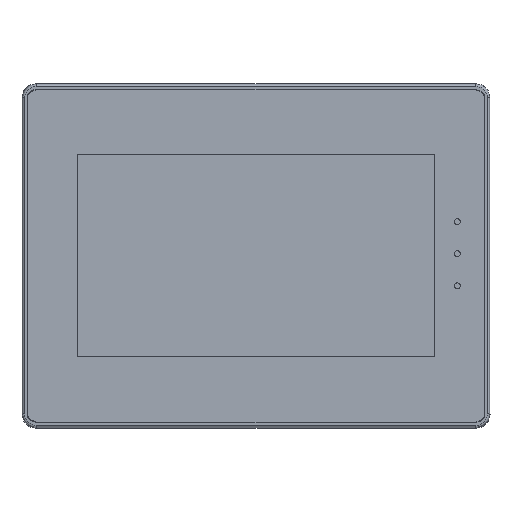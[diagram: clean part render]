
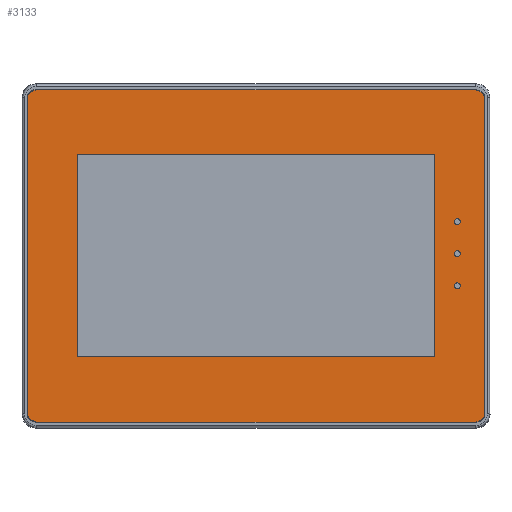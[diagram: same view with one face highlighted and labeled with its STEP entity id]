
A CAD part, top view. The second image highlights one B-rep face of the part: STEP entity #3133.
In plain terms, the highlighted planar face has unit normal (0, 0, 1).
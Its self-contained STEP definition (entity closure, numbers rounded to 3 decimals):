
#2906=DIRECTION('',(0.,1.,0.));
#2907=VECTOR('',#2906,138.5);
#2908=CARTESIAN_POINT('',(-99.5,-69.25,3.7));
#2909=LINE('',#2908,#2907);
#2910=CARTESIAN_POINT('',(-99.5,69.25,3.7));
#2911=CARTESIAN_POINT('',(-99.5,69.365,3.7));
#2912=CARTESIAN_POINT('',(-99.48,69.597,3.7));
#2913=CARTESIAN_POINT('',(-99.386,69.951,3.7));
#2914=CARTESIAN_POINT('',(-99.221,70.311,3.7));
#2915=CARTESIAN_POINT('',(-98.976,70.677,3.7));
#2916=CARTESIAN_POINT('',(-98.639,71.041,3.7));
#2917=CARTESIAN_POINT('',(-98.2,71.396,3.7));
#2918=CARTESIAN_POINT('',(-97.653,71.733,3.7));
#2919=CARTESIAN_POINT('',(-96.993,72.034,3.7));
#2920=CARTESIAN_POINT('',(-96.188,72.287,3.7));
#2921=CARTESIAN_POINT('',(-95.252,72.458,3.7));
#2922=CARTESIAN_POINT('',(-94.593,72.5,3.7));
#2923=CARTESIAN_POINT('',(-94.25,72.5,3.7));
#2925=DIRECTION('',(1.,0.,0.));
#2926=VECTOR('',#2925,188.5);
#2927=CARTESIAN_POINT('',(-94.25,72.5,3.7));
#2928=LINE('',#2927,#2926);
#2929=CARTESIAN_POINT('',(94.25,72.5,3.7));
#2930=CARTESIAN_POINT('',(94.593,72.5,3.7));
#2931=CARTESIAN_POINT('',(95.253,72.458,3.7));
#2932=CARTESIAN_POINT('',(96.189,72.287,3.7));
#2933=CARTESIAN_POINT('',(96.993,72.034,3.7));
#2934=CARTESIAN_POINT('',(97.653,71.732,3.7));
#2935=CARTESIAN_POINT('',(98.201,71.396,3.7));
#2936=CARTESIAN_POINT('',(98.639,71.041,3.7));
#2937=CARTESIAN_POINT('',(98.976,70.676,3.7));
#2938=CARTESIAN_POINT('',(99.221,70.311,3.7));
#2939=CARTESIAN_POINT('',(99.386,69.95,3.7));
#2940=CARTESIAN_POINT('',(99.48,69.597,3.7));
#2941=CARTESIAN_POINT('',(99.5,69.365,3.7));
#2942=CARTESIAN_POINT('',(99.5,69.25,3.7));
#2944=DIRECTION('',(0.,-1.,0.));
#2945=VECTOR('',#2944,138.5);
#2946=CARTESIAN_POINT('',(99.5,69.25,3.7));
#2947=LINE('',#2946,#2945);
#2948=CARTESIAN_POINT('',(99.5,-69.25,3.7));
#2949=CARTESIAN_POINT('',(99.5,-69.365,3.7));
#2950=CARTESIAN_POINT('',(99.48,-69.597,3.7));
#2951=CARTESIAN_POINT('',(99.386,-69.951,3.7));
#2952=CARTESIAN_POINT('',(99.221,-70.311,3.7));
#2953=CARTESIAN_POINT('',(98.976,-70.677,3.7));
#2954=CARTESIAN_POINT('',(98.639,-71.041,3.7));
#2955=CARTESIAN_POINT('',(98.2,-71.396,3.7));
#2956=CARTESIAN_POINT('',(97.653,-71.733,3.7));
#2957=CARTESIAN_POINT('',(96.993,-72.034,3.7));
#2958=CARTESIAN_POINT('',(96.188,-72.287,3.7));
#2959=CARTESIAN_POINT('',(95.252,-72.458,3.7));
#2960=CARTESIAN_POINT('',(94.593,-72.5,3.7));
#2961=CARTESIAN_POINT('',(94.25,-72.5,3.7));
#2963=DIRECTION('',(-1.,0.,0.));
#2964=VECTOR('',#2963,188.5);
#2965=CARTESIAN_POINT('',(94.25,-72.5,3.7));
#2966=LINE('',#2965,#2964);
#2967=CARTESIAN_POINT('',(-94.25,-72.5,3.7));
#2968=CARTESIAN_POINT('',(-94.593,-72.5,3.7));
#2969=CARTESIAN_POINT('',(-95.253,-72.458,3.7));
#2970=CARTESIAN_POINT('',(-96.189,-72.287,3.7));
#2971=CARTESIAN_POINT('',(-96.993,-72.034,3.7));
#2972=CARTESIAN_POINT('',(-97.653,-71.732,3.7));
#2973=CARTESIAN_POINT('',(-98.201,-71.396,3.7));
#2974=CARTESIAN_POINT('',(-98.639,-71.041,3.7));
#2975=CARTESIAN_POINT('',(-98.976,-70.676,3.7));
#2976=CARTESIAN_POINT('',(-99.221,-70.311,3.7));
#2977=CARTESIAN_POINT('',(-99.386,-69.95,3.7));
#2978=CARTESIAN_POINT('',(-99.48,-69.597,3.7));
#2979=CARTESIAN_POINT('',(-99.5,-69.365,3.7));
#2980=CARTESIAN_POINT('',(-99.5,-69.25,3.7));
#2982=DIRECTION('',(-1.,0.,0.));
#2983=VECTOR('',#2982,155.98);
#2984=CARTESIAN_POINT('',(77.98,44.38,3.7));
#2985=LINE('',#2984,#2983);
#2986=DIRECTION('',(0.,-1.,0.));
#2987=VECTOR('',#2986,88.29);
#2988=CARTESIAN_POINT('',(-78.,44.38,3.7));
#2989=LINE('',#2988,#2987);
#2990=DIRECTION('',(1.,0.,0.));
#2991=VECTOR('',#2990,155.98);
#2992=CARTESIAN_POINT('',(-78.,-43.91,3.7));
#2993=LINE('',#2992,#2991);
#2994=DIRECTION('',(0.,1.,0.));
#2995=VECTOR('',#2994,88.29);
#2996=CARTESIAN_POINT('',(77.98,-43.91,3.7));
#2997=LINE('',#2996,#2995);
#2998=CARTESIAN_POINT('',(87.8,15.,3.7));
#2999=DIRECTION('',(0.,0.,1.));
#3000=DIRECTION('',(1.,0.,0.));
#3001=AXIS2_PLACEMENT_3D('',#2998,#2999,#3000);
#3003=CARTESIAN_POINT('',(87.8,15.,3.7));
#3004=DIRECTION('',(0.,0.,1.));
#3005=DIRECTION('',(-1.,0.,0.));
#3006=AXIS2_PLACEMENT_3D('',#3003,#3004,#3005);
#3008=CARTESIAN_POINT('',(87.8,1.,3.7));
#3009=DIRECTION('',(0.,0.,1.));
#3010=DIRECTION('',(1.,0.,0.));
#3011=AXIS2_PLACEMENT_3D('',#3008,#3009,#3010);
#3013=CARTESIAN_POINT('',(87.8,1.,3.7));
#3014=DIRECTION('',(0.,0.,1.));
#3015=DIRECTION('',(-1.,0.,0.));
#3016=AXIS2_PLACEMENT_3D('',#3013,#3014,#3015);
#3018=CARTESIAN_POINT('',(87.8,-13.,3.7));
#3019=DIRECTION('',(0.,0.,1.));
#3020=DIRECTION('',(1.,0.,0.));
#3021=AXIS2_PLACEMENT_3D('',#3018,#3019,#3020);
#3023=CARTESIAN_POINT('',(87.8,-13.,3.7));
#3024=DIRECTION('',(0.,0.,1.));
#3025=DIRECTION('',(-1.,0.,0.));
#3026=AXIS2_PLACEMENT_3D('',#3023,#3024,#3025);
#3044=VERTEX_POINT('',#2910);
#3045=VERTEX_POINT('',#2923);
#3046=CARTESIAN_POINT('',(94.25,72.5,3.7));
#3047=VERTEX_POINT('',#3046);
#3048=VERTEX_POINT('',#2942);
#3049=VERTEX_POINT('',#2948);
#3050=VERTEX_POINT('',#2961);
#3051=CARTESIAN_POINT('',(-94.25,-72.5,3.7));
#3052=VERTEX_POINT('',#3051);
#3053=VERTEX_POINT('',#2980);
#3062=CARTESIAN_POINT('',(77.98,44.38,3.7));
#3063=CARTESIAN_POINT('',(-78.,44.38,3.7));
#3064=VERTEX_POINT('',#3062);
#3065=VERTEX_POINT('',#3063);
#3066=CARTESIAN_POINT('',(-78.,-43.91,3.7));
#3067=VERTEX_POINT('',#3066);
#3068=CARTESIAN_POINT('',(77.98,-43.91,3.7));
#3069=VERTEX_POINT('',#3068);
#3070=CARTESIAN_POINT('',(89.05,15.,3.7));
#3071=CARTESIAN_POINT('',(86.55,15.,3.7));
#3072=VERTEX_POINT('',#3070);
#3073=VERTEX_POINT('',#3071);
#3074=CARTESIAN_POINT('',(89.05,1.,3.7));
#3075=CARTESIAN_POINT('',(86.55,1.,3.7));
#3076=VERTEX_POINT('',#3074);
#3077=VERTEX_POINT('',#3075);
#3078=CARTESIAN_POINT('',(89.05,-13.,3.7));
#3079=CARTESIAN_POINT('',(86.55,-13.,3.7));
#3080=VERTEX_POINT('',#3078);
#3081=VERTEX_POINT('',#3079);
#3082=CARTESIAN_POINT('',(0.,0.,3.7));
#3083=DIRECTION('',(0.,0.,1.));
#3084=DIRECTION('',(1.,0.,0.));
#3085=AXIS2_PLACEMENT_3D('',#3082,#3083,#3084);
#3086=PLANE('',#3085);
#3088=ORIENTED_EDGE('',*,*,#3087,.T.);
#3090=ORIENTED_EDGE('',*,*,#3089,.T.);
#3092=ORIENTED_EDGE('',*,*,#3091,.T.);
#3094=ORIENTED_EDGE('',*,*,#3093,.T.);
#3096=ORIENTED_EDGE('',*,*,#3095,.T.);
#3098=ORIENTED_EDGE('',*,*,#3097,.T.);
#3100=ORIENTED_EDGE('',*,*,#3099,.T.);
#3102=ORIENTED_EDGE('',*,*,#3101,.T.);
#3103=EDGE_LOOP('',(#3088,#3090,#3092,#3094,#3096,#3098,#3100,#3102));
#3104=FACE_OUTER_BOUND('',#3103,.F.);
#3106=ORIENTED_EDGE('',*,*,#3105,.T.);
#3108=ORIENTED_EDGE('',*,*,#3107,.T.);
#3110=ORIENTED_EDGE('',*,*,#3109,.T.);
#3112=ORIENTED_EDGE('',*,*,#3111,.T.);
#3113=EDGE_LOOP('',(#3106,#3108,#3110,#3112));
#3114=FACE_BOUND('',#3113,.F.);
#3116=ORIENTED_EDGE('',*,*,#3115,.T.);
#3118=ORIENTED_EDGE('',*,*,#3117,.T.);
#3119=EDGE_LOOP('',(#3116,#3118));
#3120=FACE_BOUND('',#3119,.F.);
#3122=ORIENTED_EDGE('',*,*,#3121,.T.);
#3124=ORIENTED_EDGE('',*,*,#3123,.T.);
#3125=EDGE_LOOP('',(#3122,#3124));
#3126=FACE_BOUND('',#3125,.F.);
#3128=ORIENTED_EDGE('',*,*,#3127,.T.);
#3130=ORIENTED_EDGE('',*,*,#3129,.T.);
#3131=EDGE_LOOP('',(#3128,#3130));
#3132=FACE_BOUND('',#3131,.F.);
#3133=ADVANCED_FACE('',(#3104,#3114,#3120,#3126,#3132),#3086,.T.);
#2924=B_SPLINE_CURVE_WITH_KNOTS('',3,(#2910,#2911,#2912,#2913,#2914,#2915,#2916,
#2917,#2918,#2919,#2920,#2921,#2922,#2923),.UNSPECIFIED.,.F.,.F.,(4,1,1,1,1,1,1,
1,1,1,1,4),(0.,0.091,0.182,0.273,
0.364,0.455,0.545,0.636,
0.727,0.818,0.909,1.),.UNSPECIFIED.);
#2943=B_SPLINE_CURVE_WITH_KNOTS('',3,(#2929,#2930,#2931,#2932,#2933,#2934,#2935,
#2936,#2937,#2938,#2939,#2940,#2941,#2942),.UNSPECIFIED.,.F.,.F.,(4,1,1,1,1,1,1,
1,1,1,1,4),(0.,0.091,0.182,0.273,
0.364,0.455,0.545,0.636,
0.727,0.818,0.909,1.),.UNSPECIFIED.);
#2962=B_SPLINE_CURVE_WITH_KNOTS('',3,(#2948,#2949,#2950,#2951,#2952,#2953,#2954,
#2955,#2956,#2957,#2958,#2959,#2960,#2961),.UNSPECIFIED.,.F.,.F.,(4,1,1,1,1,1,1,
1,1,1,1,4),(0.,0.091,0.182,0.273,
0.364,0.455,0.545,0.636,
0.727,0.818,0.909,1.),.UNSPECIFIED.);
#2981=B_SPLINE_CURVE_WITH_KNOTS('',3,(#2967,#2968,#2969,#2970,#2971,#2972,#2973,
#2974,#2975,#2976,#2977,#2978,#2979,#2980),.UNSPECIFIED.,.F.,.F.,(4,1,1,1,1,1,1,
1,1,1,1,4),(0.,0.091,0.182,0.273,
0.364,0.455,0.545,0.636,
0.727,0.818,0.909,1.),.UNSPECIFIED.);
#3002=CIRCLE('',#3001,1.25);
#3007=CIRCLE('',#3006,1.25);
#3012=CIRCLE('',#3011,1.25);
#3017=CIRCLE('',#3016,1.25);
#3022=CIRCLE('',#3021,1.25);
#3027=CIRCLE('',#3026,1.25);
#3087=EDGE_CURVE('',#3053,#3044,#2909,.T.);
#3089=EDGE_CURVE('',#3044,#3045,#2924,.T.);
#3091=EDGE_CURVE('',#3045,#3047,#2928,.T.);
#3093=EDGE_CURVE('',#3047,#3048,#2943,.T.);
#3095=EDGE_CURVE('',#3048,#3049,#2947,.T.);
#3097=EDGE_CURVE('',#3049,#3050,#2962,.T.);
#3099=EDGE_CURVE('',#3050,#3052,#2966,.T.);
#3101=EDGE_CURVE('',#3052,#3053,#2981,.T.);
#3105=EDGE_CURVE('',#3064,#3065,#2985,.T.);
#3107=EDGE_CURVE('',#3065,#3067,#2989,.T.);
#3109=EDGE_CURVE('',#3067,#3069,#2993,.T.);
#3111=EDGE_CURVE('',#3069,#3064,#2997,.T.);
#3115=EDGE_CURVE('',#3072,#3073,#3002,.T.);
#3117=EDGE_CURVE('',#3073,#3072,#3007,.T.);
#3121=EDGE_CURVE('',#3076,#3077,#3012,.T.);
#3123=EDGE_CURVE('',#3077,#3076,#3017,.T.);
#3127=EDGE_CURVE('',#3080,#3081,#3022,.T.);
#3129=EDGE_CURVE('',#3081,#3080,#3027,.T.);
